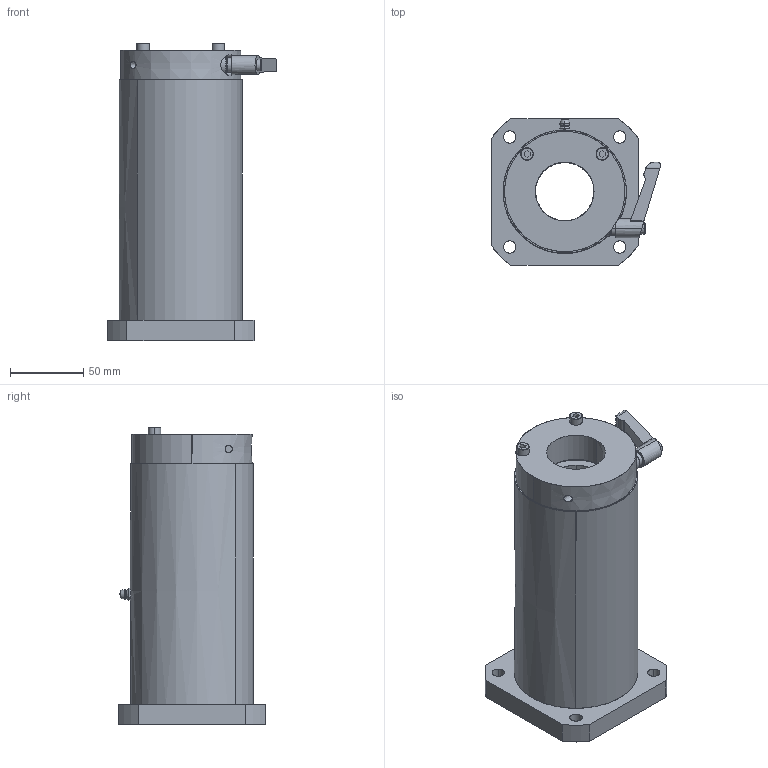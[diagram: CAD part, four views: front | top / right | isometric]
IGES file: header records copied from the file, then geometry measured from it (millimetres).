
Start section: SolidWorks IGES file using analytic representation for surfaces
Global section: file name: C:\Users\yamad\Desktop\IGES\LFWK40-OH-CS.IGS; native system: SolidWorks 2019; preprocessor: SolidWorks 2019; author: yamad; date: 230626.171610; units: millimetre
Bounding box: 115.4 x 100 x 203 mm (x, y, z)
Surface area: 125602.1 mm2 (no closed solid volume)
Topology: 0 solids, 0 shells, 231 faces, 5953 edges, 5951 vertices
Faces by surface type: bspline 124, revolution 107
